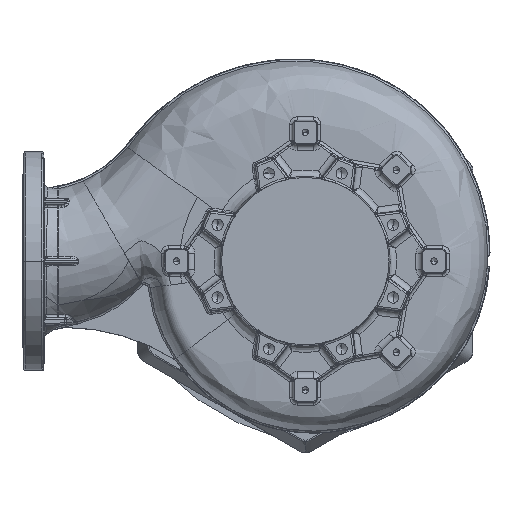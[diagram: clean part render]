
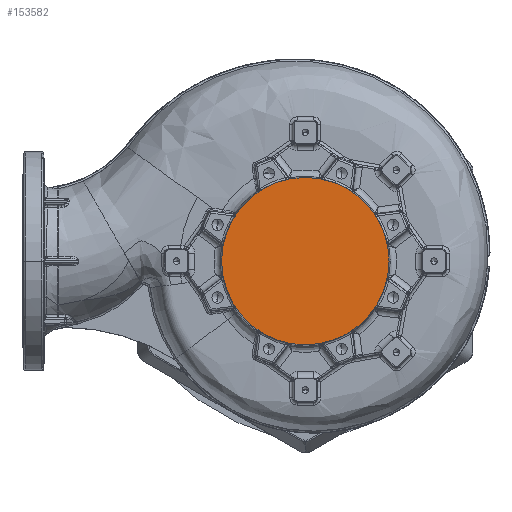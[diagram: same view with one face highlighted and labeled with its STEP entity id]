
A CAD part, front view. The second image highlights one B-rep face of the part: STEP entity #153582.
In plain terms, the highlighted planar face has unit normal (0, -1, 0).
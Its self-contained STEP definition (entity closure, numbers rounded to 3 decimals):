
#1381 = DIRECTION ( 'NONE',  ( 0., -1., 0. ) ) ;
#8291 = VERTEX_POINT ( 'NONE', #162955 ) ;
#10566 = AXIS2_PLACEMENT_3D ( 'NONE', #83518, #1381, #97275 ) ;
#10654 = EDGE_CURVE ( 'NONE', #71585, #8291, #75462, .T. ) ;
#16069 = AXIS2_PLACEMENT_3D ( 'NONE', #147091, #65090, #160878 ) ;
#23452 = FACE_OUTER_BOUND ( 'NONE', #40531, .T. ) ;
#40531 = EDGE_LOOP ( 'NONE', ( #109705, #45494 ) ) ;
#44249 = CARTESIAN_POINT ( 'NONE',  ( 0., -491.5, 0. ) ) ;
#45494 = ORIENTED_EDGE ( 'NONE', *, *, #75711, .T. ) ;
#58045 = DIRECTION ( 'NONE',  ( 1., 0., 0. ) ) ;
#65090 = DIRECTION ( 'NONE',  ( 0., 1., 0. ) ) ;
#71585 = VERTEX_POINT ( 'NONE', #148135 ) ;
#75462 = CIRCLE ( 'NONE', #10566, 130. ) ;
#75711 = EDGE_CURVE ( 'NONE', #8291, #71585, #88349, .T. ) ;
#83233 = AXIS2_PLACEMENT_3D ( 'NONE', #44249, #140022, #58045 ) ;
#83518 = CARTESIAN_POINT ( 'NONE',  ( 0., -491.5, 0. ) ) ;
#88349 = CIRCLE ( 'NONE', #83233, 130. ) ;
#91987 = PLANE ( 'NONE',  #16069 ) ;
#97275 = DIRECTION ( 'NONE',  ( 1., 0., 0. ) ) ;
#109705 = ORIENTED_EDGE ( 'NONE', *, *, #10654, .T. ) ;
#140022 = DIRECTION ( 'NONE',  ( 0., -1., 0. ) ) ;
#147091 = CARTESIAN_POINT ( 'NONE',  ( 0., -491.5, 0. ) ) ;
#148135 = CARTESIAN_POINT ( 'NONE',  ( -130., -491.5, 0. ) ) ;
#153582 = ADVANCED_FACE ( 'NONE', ( #23452 ), #91987, .F. ) ;
#160878 = DIRECTION ( 'NONE',  ( -1., 0., 0. ) ) ;
#162955 = CARTESIAN_POINT ( 'NONE',  ( 130., -491.5, 0. ) ) ;
